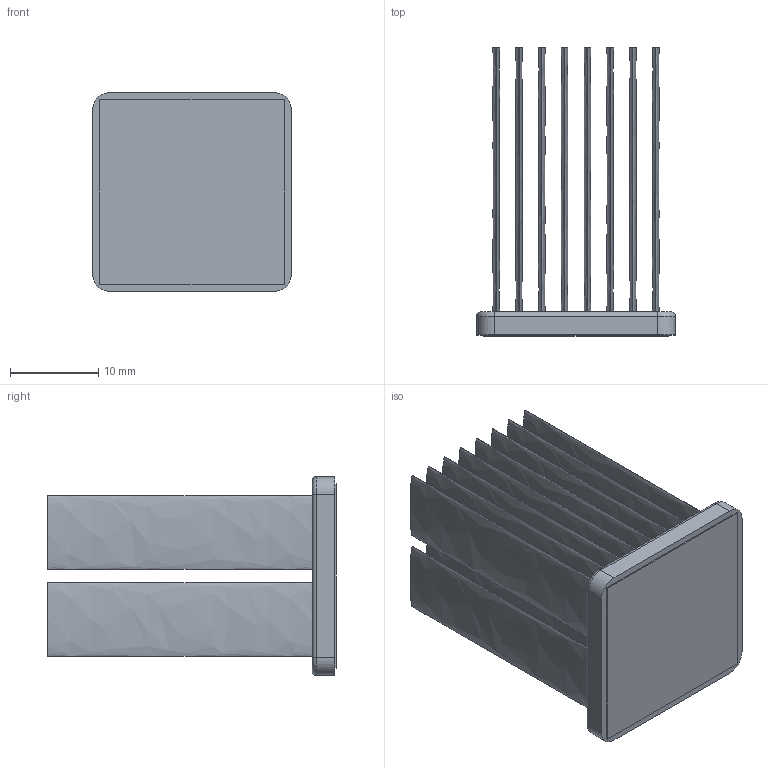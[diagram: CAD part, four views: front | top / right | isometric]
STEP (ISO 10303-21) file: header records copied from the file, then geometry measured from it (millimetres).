
FILE_DESCRIPTION (( 'STEP AP214' ), '1' );
FILE_NAME ('INM23001-33W_2.6 (NONE).STEP', '2023-02-15T19:39:27', ( '' ), ( '' ), 'SwSTEP 2.0', 'SolidWorks 2020', '' );
FILE_SCHEMA (( 'AUTOMOTIVE_DESIGN' ));
Length unit declared in the file: inch
Products named in the file (1): INM23001-33W_2.6 (NONE)
Bounding box: 22.6 x 32.73 x 22.6 mm (x, y, z)
Volume: 3778 mm3; surface area: 10270.2 mm2
Topology: 2 solids, 2 shells, 72 faces, 148 edges, 96 vertices
Faces by surface type: bspline 32, plane 28, cylinder 8, torus 4
Entity records: 2951 total; most frequent: CARTESIAN_POINT 733, ORIENTED_EDGE 296, DIRECTION 186, EDGE_CURVE 148, VERTEX_POINT 96, EDGE_LOOP 88, DIMENSIONAL_EXPONENTS 76, UNCERTAINTY_MEASURE_WITH_UNIT 76
